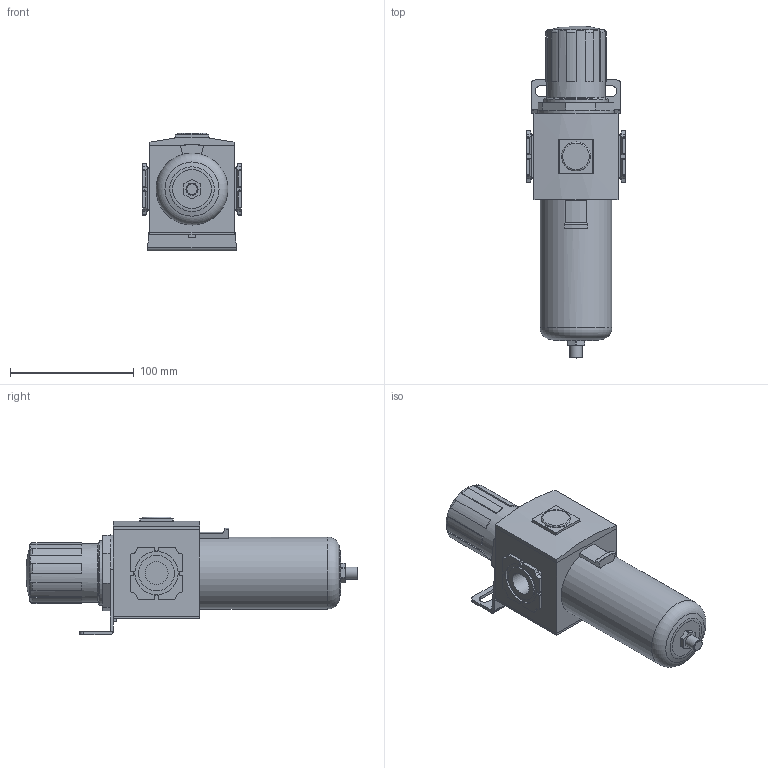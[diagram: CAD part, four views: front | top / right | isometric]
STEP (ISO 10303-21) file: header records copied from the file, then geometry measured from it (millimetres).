
FILE_DESCRIPTION( ( 'STEP AP214' ), '1' );
FILE_NAME( 'C:/Users/emc03072/Desktop/EAW/EAW4000-04DF25M.stp', '2026-08-14T16:42:19', ( 'License CC BY-ND 4.0' ), ( 'CADENAS' ), ' ', 'PARTsolutions', ' ' );
FILE_SCHEMA( ( 'AUTOMOTIVE_DESIGN { 1 0 10303 214 1 1 1 1 }' ) );
Length unit declared in the file: millimetre
Products named in the file (2): EAW4000-04DF25M; _EAW4000-04DF25M-body
Assembly tree (1 placements, depth 2):
  EAW4000-04DF25M
    _EAW4000-04DF25M-body
Bounding box: 80 x 268.58 x 95.3 mm (x, y, z)
Volume: 821201.7 mm3; surface area: 76375.6 mm2
Topology: 1 solids, 2 shells, 352 faces, 954 edges, 625 vertices
Faces by surface type: plane 288, cylinder 47, torus 10, cone 6, sphere 1
Full cylindrical faces by diameter (mm): 9.726 x1, 18.631 x2, 23.5 x1, 28.8 x2, 35 x2, 42 x1, 47.28 x1, 52 x2, 58.094 x1
Entity records: 13705 total; most frequent: CARTESIAN_POINT 1906, ORIENTED_EDGE 1854, DIRECTION 1821, EDGE_CURVE 927, LINE 739, VECTOR 739, VERTEX_POINT 624, AXIS2_PLACEMENT_3D 541
